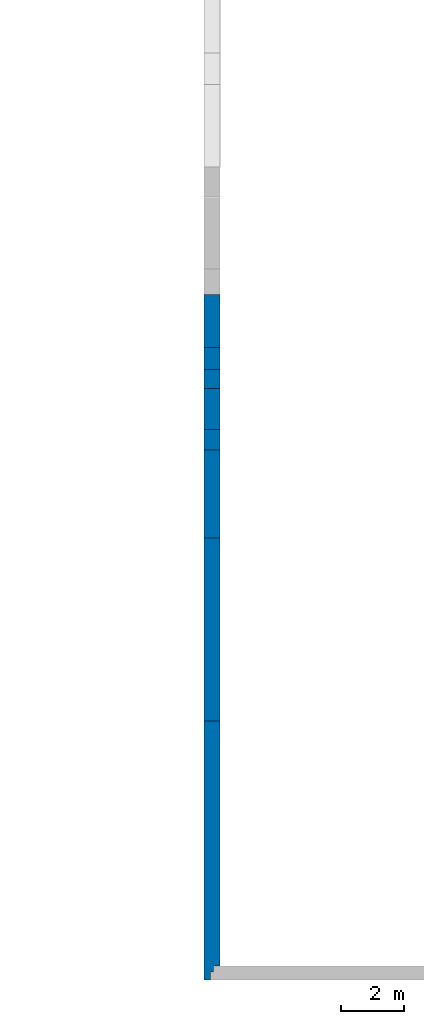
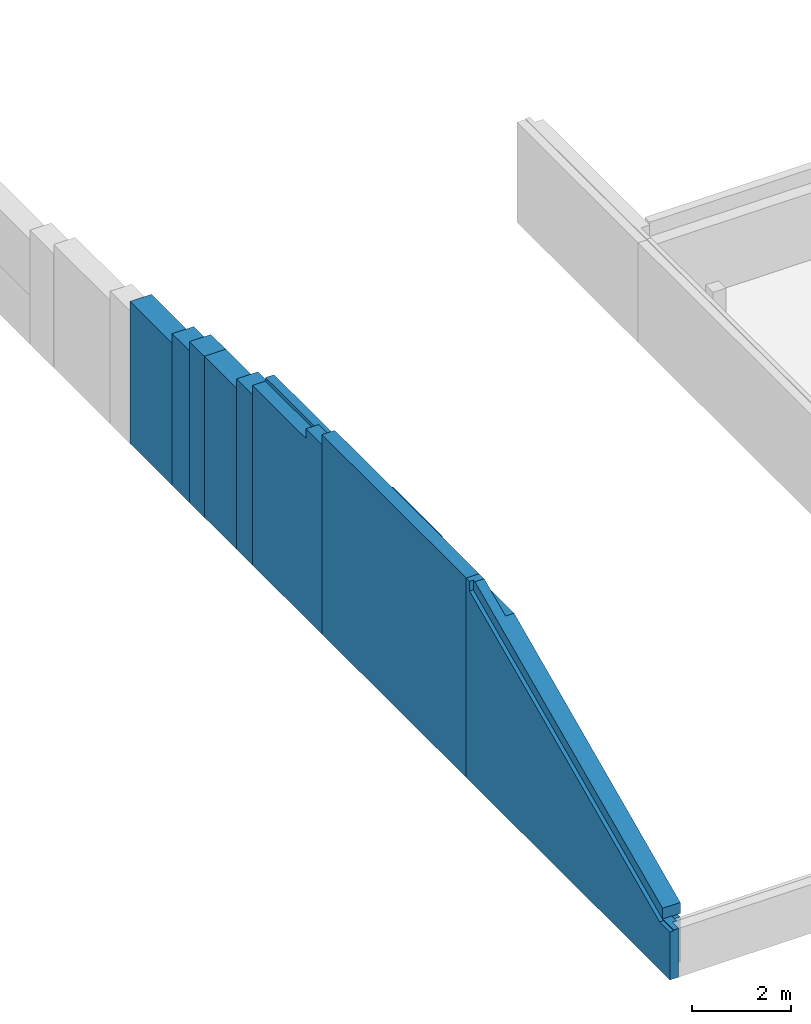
# One storey, part 3 of 8: 8 walls.
"""IFC2X3 building model written with IfcOpenShell, lengths in millimetres."""

from ifc_helpers import new_model, entity, si_unit, converted_unit, derived_unit, money_unit, direction, frame, origin_with_axes, place, context, subcontext, project, spatial, faceted_brep, material, material_list, type_object, element, save


model = new_model("IFC2X3")

# Units and contexts
model_context = context("Model", 3, precision=0.01, world=origin_with_axes(), true_north=direction((0.0, 1.0)))
body_context = subcontext(model_context, "Body", "Model", "MODEL_VIEW")
ifc_project = project(units=[si_unit("LENGTHUNIT", "METRE", prefix="MILLI"), si_unit("AREAUNIT", "SQUARE_METRE"), si_unit("VOLUMEUNIT", "CUBIC_METRE"), converted_unit("PLANEANGLEUNIT", "DEGREE", entity("IfcPlaneAngleMeasure", 0.0174532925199), si_unit("PLANEANGLEUNIT", "RADIAN"), dimensions=[0, 0, 0, 0, 0, 0, 0]), si_unit("SOLIDANGLEUNIT", "STERADIAN"), money_unit("EUR"), converted_unit("TIMEUNIT", "Year", entity("IfcTimeMeasure", 31556926.0), si_unit("TIMEUNIT", "SECOND"), dimensions=[0, 0, 1, 0, 0, 0, 0]), si_unit("MASSUNIT", "GRAM", prefix="KILO"), si_unit("THERMODYNAMICTEMPERATUREUNIT", "DEGREE_CELSIUS"), si_unit("LUMINOUSINTENSITYUNIT", "LUMEN"), si_unit("ENERGYUNIT", "JOULE", prefix="MEGA"), derived_unit("THERMALCONDUCTANCEUNIT", [(si_unit("POWERUNIT", "WATT"), 1), (si_unit("LENGTHUNIT", "METRE"), -1), (si_unit("THERMODYNAMICTEMPERATUREUNIT", "KELVIN"), -1)]), derived_unit("SPECIFICHEATCAPACITYUNIT", [(si_unit("ENERGYUNIT", "JOULE"), 1), (si_unit("MASSUNIT", "GRAM", prefix="KILO"), -1), (si_unit("THERMODYNAMICTEMPERATUREUNIT", "KELVIN"), -1)]), derived_unit("MASSDENSITYUNIT", [(si_unit("MASSUNIT", "GRAM", prefix="KILO"), 1), (si_unit("VOLUMEUNIT", "CUBIC_METRE"), -1)])], contexts=[model_context])

# Site, building, storey
site_placement = place(None, origin_with_axes())
site = spatial("IfcSite", under=ifc_project, at=site_placement, Name="L.Koidula tn 11b", CompositionType="ELEMENT")
building_placement = place(site_placement, origin_with_axes())
building = spatial("IfcBuilding", under=site, at=building_placement, Name="Rakvere Riigigümnaasium", CompositionType="ELEMENT")
storey_placement = place(building_placement, frame((0.0, 0.0, -2100.0), z_axis=(0.0, 0.0, 1.0), x_axis=(1.0, 0.0, 0.0)))
storey = spatial("IfcBuildingStorey", under=building, at=storey_placement, Name="1.korrus_tehniline -2,10", CompositionType="ELEMENT", Elevation=-2100.0)

# Walls
ifc_material_1 = material(Name="Betoon element / plaat")
ifc_material_2 = material(Name="SOJ-04_Soojustus - Mineraal Kõva")
ifc_material_list_1 = material_list([ifc_material_1, ifc_material_2, ifc_material_2])
wall_type_1 = type_object("IfcWallType", Name="VS-06 500", PredefinedType="NOTDEFINED")
wall_1_placement = place(storey_placement, frame((35500.0000521, 19110.4555253, 899.999997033), z_axis=(0.0, 0.0, 1.0), x_axis=(0.0, -1.0, 0.0)))
element("IfcWall", 1, at=wall_1_placement, inside=storey, type_object=wall_type_1, material=ifc_material_list_1, Name="Välissein", context=body_context, shape_type="Brep", body=[
    faceted_brep([(-6.32383034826e-10, -200.000429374, 1040.00000297), (0.0, 0.0, 1040.00000297), (0.0, 0.0, 0.0), (0.0, -200.0, 0.0), (4009.96186183, 0.0, 1040.00000297), (4009.96152922, -200.006498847, 1040.00000297), (4009.96186183, 0.0, 1110.00000297), (5830.00115353, 0.0, 1110.00000297), (5830.00115353, 0.0, 0.0), (5830.00115353, -200.0, 0.0), (5830.00115353, -200.0, 1110.00000297), (4009.96152922, -200.006498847, 1110.00000297)], [[[0, 1, 2, 3]], [[4, 1, 0, 5]], [[4, 6, 7, 8, 2, 1]], [[2, 8, 9, 3]], [[5, 0, 3, 9, 10, 11]], [[11, 6, 4, 5]], [[6, 11, 10, 7]], [[7, 10, 9, 8]]]),
    faceted_brep([(0.0, 0.0, 1190.00000297), (0.0, 0.0, 4525.00000297), (1999.9999744, 0.0, 4525.00000297), (2000.0000248, 0.0, 4670.00000297), (4009.97699504, 0.0, 4670.00000297), (4009.97699504, 0.0, 4525.00000297), (5830.00115353, 0.0, 4525.00000297), (5830.00115353, 0.0, 1190.00000297), (-6.28830321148e-10, -200.000429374, 1190.00000297), (0.0, -200.000052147, 4525.00000297), (1999.99997349, -200.000052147, 4525.00000297), (2000.0000248, -200.000052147, 4670.00000297), (4009.97699504, -200.0, 4670.00000297), (4009.97699504, -198.639259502, 4670.00000297), (4009.97699504, -198.639259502, 4525.00000297), (5830.00115353, -198.639259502, 4525.00000297), (5830.00115353, -198.639259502, 4920.00000297), (5830.00115353, -200.0, 4919.99998677), (5830.00115353, -200.0, 1190.00000297), (4009.96152922, -200.006498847, 1190.00000297), (4009.97699504, -200.00002478, 4920.00000297), (4009.97699504, -198.639259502, 4920.00000297)], [[[0, 1, 2, 3, 4, 5, 6, 7]], [[0, 8, 9, 1]], [[2, 1, 9, 10]], [[11, 3, 2, 10]], [[11, 12, 13, 4, 3]], [[4, 13, 14, 5]], [[6, 5, 14, 15]], [[15, 16, 17, 18, 7, 6]], [[19, 8, 0, 7, 18]], [[8, 19, 18, 17, 20, 12, 11, 10, 9]], [[20, 21, 13, 12]], [[13, 21, 16, 15, 14]], [[21, 20, 17, 16]]]),
    faceted_brep([(4009.96136294, -300.0, 1190.00000297), (4009.96136294, -300.0, 1010.00000297), (4009.96152923, -200.0, 1010.00000297), (4009.96152923, -200.0, 1190.00000297), (5830.00115353, -300.0, 1190.00000297), (5830.00115353, -300.0, 4919.99998677), (0.0, -300.0, 4919.99998677), (0.0, -300.0, 0.0), (5830.00115353, -300.0, 0.0), (5830.00115353, -300.0, 1010.00000297), (5830.00115353, -200.0, 1010.00000297), (5830.00115353, -200.0, 0.0), (0.0, -200.0, 0.0), (0.0, -200.0, 4919.99998677), (5830.00115353, -200.0, 4919.99998677), (5830.00115353, -200.0, 1190.00000297)], [[[0, 1, 2, 3]], [[1, 0, 4, 5, 6, 7, 8, 9]], [[10, 2, 1, 9]], [[2, 10, 11, 12, 13, 14, 15, 3]], [[3, 15, 4, 0]], [[4, 15, 14, 5]], [[6, 5, 14, 13]], [[13, 12, 7, 6]], [[12, 11, 8, 7]], [[10, 9, 8, 11]]]),
    faceted_brep([(4009.96122989, -380.004517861, 1190.00000297), (4009.96122989, -380.004517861, 1010.00000297), (4009.96136294, -300.0, 1010.00000297), (4009.96136294, -300.0, 1190.00000297), (5830.00115353, -380.0, 1010.00000297), (5830.00115353, -380.0, 1190.00000297), (5830.00115353, -300.0, 1010.00000297), (5830.00115353, -300.0, 0.0), (0.0, -300.0, 0.0), (0.0, -300.0, 4919.99998677), (5830.00115353, -300.0, 4919.99998677), (5830.00115353, -300.0, 1190.00000297), (5830.00115353, -500.0, 4919.99998677), (5830.00115353, -500.0, 0.0), (0.0, -500.0, 0.0), (0.0, -500.0, 4919.99998677)], [[[0, 1, 2, 3]], [[4, 1, 0, 5]], [[6, 2, 1, 4]], [[2, 6, 7, 8, 9, 10, 11, 3]], [[3, 11, 5, 0]], [[4, 5, 11, 10, 12, 13, 7, 6]], [[8, 7, 13, 14]], [[9, 8, 14, 15]], [[15, 12, 10, 9]], [[14, 13, 12, 15]]]),
])
wall_2_placement = place(storey_placement, frame((35500.0000521, 26860.4555253, 899.999997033), z_axis=(0.0, 0.0, 1.0), x_axis=(0.0, -1.0, 0.0)))
element("IfcWall", 2, at=wall_2_placement, inside=storey, type_object=wall_type_1, material=ifc_material_list_1, Name="Välissein", context=body_context, shape_type="Brep", body=[
    faceted_brep([(1.71063163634e-08, -199.988698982, 1040.00000297), (0.0, 0.0, 1040.00000297), (0.0, 0.0, 0.0), (0.0, -200.0, 0.0), (1700.00000001, -199.9912721, 1040.00000297), (1700.0, 0.0, 1040.00000297), (1700.0, 0.0, 0.0), (1700.0, -200.0, 0.0)], [[[0, 1, 2, 3]], [[1, 0, 4, 5]], [[1, 5, 6, 2]], [[6, 7, 3, 2]], [[0, 3, 7, 4]], [[6, 5, 4, 7]]]),
    faceted_brep([(0.0, 0.0, 1190.00000297), (0.0, 0.0, 3505.00000297), (1700.0, 0.0, 3505.00000297), (1700.0, 0.0, 1190.00000297), (1.71063163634e-08, -199.988698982, 1190.00000297), (0.0, -200.0, 3505.00000297), (1700.0, -200.0, 3505.00000297), (1700.00000001, -199.9912721, 1190.00000297)], [[[0, 1, 2, 3]], [[0, 4, 5, 1]], [[6, 2, 1, 5]], [[6, 7, 3, 2]], [[4, 0, 3, 7]], [[4, 7, 6, 5]]]),
    faceted_brep([(0.0, -200.0, 0.0), (1700.0, -200.0, 0.0), (1700.0, -300.0, 0.0), (0.0, -300.0, 0.0), (0.0, -200.0, 3505.00000297), (1700.0, -200.0, 3505.00000297), (1700.0, -300.0, 3505.00000297), (0.0, -300.0, 3505.00000297)], [[[0, 1, 2, 3]], [[4, 5, 1, 0]], [[2, 1, 5, 6]], [[3, 2, 6, 7]], [[4, 0, 3, 7]], [[7, 6, 5, 4]]]),
    faceted_brep([(1700.0, -300.0, 0.0), (1700.0, -500.0, 0.0), (0.0, -500.0, 0.0), (0.0, -300.0, 0.0), (1700.0, -300.0, 3505.00000297), (1700.0, -500.0, 3505.00000297), (0.0, -500.0, 3505.00000297), (0.0, -300.0, 3505.00000297)], [[[0, 1, 2, 3]], [[0, 4, 5, 1]], [[1, 5, 6, 2]], [[3, 2, 6, 7]], [[4, 0, 3, 7]], [[5, 4, 7, 6]]]),
])
wall_3_placement = place(storey_placement, frame((35500.0000521, 21910.4555253, 899.999997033), z_axis=(0.0, 0.0, 1.0), x_axis=(0.0, -1.0, 0.0)))
element("IfcWall", 3, at=wall_3_placement, inside=storey, type_object=wall_type_1, material=ifc_material_list_1, Name="Välissein", context=body_context, shape_type="Brep", body=[
    faceted_brep([(5.78381786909e-09, -199.996191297, 1040.00000297), (0.0, 0.0, 1040.00000297), (0.0, 0.0, 0.0), (0.0, -200.0, 0.0), (2800.0, 0.0, 1040.00000297), (2800.0, -200.000429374, 1040.00000297), (2800.0, 0.0, 0.0), (2800.0, -200.0, 0.0)], [[[0, 1, 2, 3]], [[4, 1, 0, 5]], [[1, 4, 6, 2]], [[3, 2, 6, 7]], [[5, 0, 3, 7]], [[4, 5, 7, 6]]]),
    faceted_brep([(2800.0, 0.0, 1190.00000297), (0.0, 0.0, 1190.00000297), (0.0, 0.0, 4525.00000297), (2800.0, 0.0, 4525.00000297), (5.78737058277e-09, -199.996191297, 1190.00000297), (2800.0, -200.000429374, 1190.00000297), (0.0, -200.000052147, 4525.00000297), (2800.0, -200.000052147, 4525.00000297)], [[[0, 1, 2, 3]], [[4, 1, 0, 5]], [[1, 4, 6, 2]], [[3, 2, 6, 7]], [[5, 0, 3, 7]], [[4, 5, 7, 6]]]),
    faceted_brep([(0.0, -300.0, 0.0), (0.0, -300.0, 4435.00000297), (0.0, -200.0, 4435.00000297), (0.0, -200.0, 0.0), (2150.0, -300.0, 4668.89976078), (2150.0, -300.0, 4435.00000297), (2800.0, -300.0, 0.0), (2800.0, -300.0, 4668.89976078), (2150.0, -200.0, 4435.00000297), (2150.0, -200.0, 4668.89976078), (2800.0, -200.0, 4668.89976078), (2800.0, -200.0, 0.0)], [[[0, 1, 2, 3]], [[4, 5, 1, 0, 6, 7]], [[5, 8, 2, 1]], [[2, 8, 9, 10, 11, 3]], [[0, 3, 11, 6]], [[5, 4, 9, 8]], [[7, 6, 11, 10]], [[10, 9, 4, 7]]]),
    faceted_brep([(0.0, -300.0, 4435.00000297), (0.0, -300.0, 0.0), (0.0, -500.0, 0.0), (0.0, -500.0, 4435.00000297), (2150.0, -300.0, 4435.00000297), (2150.0, -300.0, 4668.89976078), (2800.0, -300.0, 4668.89976078), (2800.0, -300.0, 0.0), (2800.0, -500.0, 0.0), (2150.0, -500.0, 4435.00000297), (2800.0, -500.0, 4668.89976078), (2150.0, -500.0, 4668.89976078)], [[[0, 1, 2, 3]], [[4, 5, 6, 7, 1, 0]], [[1, 7, 8, 2]], [[9, 3, 2, 8, 10, 11]], [[9, 4, 0, 3]], [[11, 5, 4, 9]], [[11, 10, 6, 5]], [[8, 7, 6, 10]]]),
])
wall_4_placement = place(storey_placement, frame((35500.0000521, 25160.4555253, 899.999997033), z_axis=(0.0, 0.0, 1.0), x_axis=(0.0, -1.0, 0.0)))
element("IfcWall", 4, at=wall_4_placement, inside=storey, type_object=wall_type_1, material=ifc_material_list_1, Name="Välissein", context=body_context, shape_type="Brep", body=[
    faceted_brep([(1.32089894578e-08, -199.9912721, 1040.00000297), (0.0, 0.0, 1040.00000297), (0.0, 0.0, 0.0), (0.0, -200.0, 0.0), (700.0, 0.0, 1040.00000297), (700.000000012, -199.99233162, 1040.00000297), (700.0, 0.0, 0.0), (700.0, -200.0, 0.0)], [[[0, 1, 2, 3]], [[4, 1, 0, 5]], [[1, 4, 6, 2]], [[2, 6, 7, 3]], [[5, 0, 3, 7]], [[4, 5, 7, 6]]]),
    faceted_brep([(700.0, 0.0, 1190.00000297), (0.0, 0.0, 1190.00000297), (0.0, 0.0, 3740.00000297), (700.0, 0.0, 3740.00000297), (1.32089894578e-08, -199.9912721, 1190.00000297), (700.000000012, -199.99233162, 1190.00000297), (0.0, -200.0, 3740.00000297), (700.0, -200.0, 3740.00000297)], [[[0, 1, 2, 3]], [[4, 1, 0, 5]], [[1, 4, 6, 2]], [[6, 7, 3, 2]], [[5, 0, 3, 7]], [[4, 5, 7, 6]]]),
    faceted_brep([(0.0, -200.0, 0.0), (700.0, -200.0, 0.0), (700.0, -300.0, 0.0), (0.0, -300.0, 0.0), (0.0, -200.0, 3740.00000297), (700.0, -200.0, 3740.00000297), (700.0, -300.0, 3740.00000297), (0.0, -300.0, 3740.00000297)], [[[0, 1, 2, 3]], [[4, 5, 1, 0]], [[2, 1, 5, 6]], [[3, 2, 6, 7]], [[4, 0, 3, 7]], [[7, 6, 5, 4]]]),
    faceted_brep([(700.0, -300.0, 0.0), (700.0, -500.0, 0.0), (0.0, -500.0, 0.0), (0.0, -300.0, 0.0), (700.0, -300.0, 3740.00000297), (700.0, -500.0, 3740.00000297), (0.0, -500.0, 3740.00000297), (0.0, -300.0, 3740.00000297)], [[[0, 1, 2, 3]], [[0, 4, 5, 1]], [[1, 5, 6, 2]], [[3, 2, 6, 7]], [[4, 0, 3, 7]], [[5, 4, 7, 6]]]),
])
wall_5_placement = place(storey_placement, frame((35500.0000521, 22560.4555253, 899.999997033), z_axis=(0.0, 0.0, 1.0), x_axis=(0.0, -1.0, 0.0)))
element("IfcWall", 5, at=wall_5_placement, inside=storey, type_object=wall_type_1, material=ifc_material_list_1, Name="Välissein", context=body_context, shape_type="Brep", body=[
    faceted_brep([(7.25464133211e-09, -199.995207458, 1040.00000297), (0.0, 0.0, 1040.00000297), (0.0, 0.0, 0.0), (0.0, -200.0, 0.0), (650.0, 0.0, 1040.00000297), (650.000000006, -199.996191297, 1040.00000297), (650.0, 0.0, 0.0), (650.0, -200.0, 0.0)], [[[0, 1, 2, 3]], [[4, 1, 0, 5]], [[1, 4, 6, 2]], [[3, 2, 6, 7]], [[5, 0, 3, 7]], [[4, 5, 7, 6]]]),
    faceted_brep([(650.0, 0.0, 1190.00000297), (0.0, 0.0, 1190.00000297), (0.0, 0.0, 4203.00000297), (650.0, 0.0, 4203.00000297), (7.25464133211e-09, -199.995207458, 1190.00000297), (650.000000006, -199.996191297, 1190.00000297), (0.0, -200.0, 4203.00000297), (650.0, -200.0, 4203.00000297)], [[[0, 1, 2, 3]], [[4, 1, 0, 5]], [[1, 4, 6, 2]], [[2, 6, 7, 3]], [[5, 0, 3, 7]], [[4, 5, 7, 6]]]),
    faceted_brep([(0.0, -300.0, 0.0), (0.0, -200.0, 0.0), (650.0, -200.0, 0.0), (650.0, -300.0, 0.0), (0.0, -300.0, 4203.00000297), (0.0, -200.0, 4203.00000297), (650.0, -200.0, 4203.00000297), (650.0, -300.0, 4203.00000297)], [[[0, 1, 2, 3]], [[4, 5, 1, 0]], [[1, 5, 6, 2]], [[7, 3, 2, 6]], [[4, 0, 3, 7]], [[5, 4, 7, 6]]]),
    faceted_brep([(0.0, -300.0, 0.0), (650.0, -300.0, 0.0), (650.0, -500.0, 0.0), (0.0, -500.0, 0.0), (0.0, -300.0, 4203.00000297), (650.0, -300.0, 4203.00000297), (650.0, -500.0, 4203.00000297), (0.0, -500.0, 4203.00000297)], [[[0, 1, 2, 3]], [[4, 5, 1, 0]], [[2, 1, 5, 6]], [[3, 2, 6, 7]], [[4, 0, 3, 7]], [[7, 6, 5, 4]]]),
])
wall_6_placement = place(storey_placement, frame((35500.0000521, 23860.4555253, 899.999997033), z_axis=(0.0, 0.0, 1.0), x_axis=(0.0, -1.0, 0.0)))
element("IfcWall", 6, at=wall_6_placement, inside=storey, type_object=wall_type_1, material=ifc_material_list_1, Name="Välissein", context=body_context, shape_type="Brep", body=[
    faceted_brep([(1.02318153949e-08, -199.993239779, 1040.00000297), (0.0, 0.0, 1040.00000297), (0.0, 0.0, 0.0), (0.0, -200.0, 0.0), (1300.0, 0.0, 1040.00000297), (1300.00000001, -199.995207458, 1040.00000297), (1300.0, 0.0, 0.0), (1300.0, -200.0, 0.0)], [[[0, 1, 2, 3]], [[4, 1, 0, 5]], [[1, 4, 6, 2]], [[2, 6, 7, 3]], [[5, 0, 3, 7]], [[4, 5, 7, 6]]]),
    faceted_brep([(1300.0, 0.0, 1190.00000297), (0.0, 0.0, 1190.00000297), (0.0, 0.0, 3970.00000297), (1300.0, 0.0, 3970.00000297), (1.02318153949e-08, -199.993239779, 1190.00000297), (1300.00000001, -199.995207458, 1190.00000297), (0.0, -200.0, 3970.00000297), (1300.0, -200.0, 3970.00000297)], [[[0, 1, 2, 3]], [[4, 1, 0, 5]], [[1, 4, 6, 2]], [[6, 7, 3, 2]], [[5, 0, 3, 7]], [[4, 5, 7, 6]]]),
    faceted_brep([(0.0, -200.0, 0.0), (1300.0, -200.0, 0.0), (1300.0, -300.0, 0.0), (0.0, -300.0, 0.0), (0.0, -200.0, 3970.00000297), (1300.0, -200.0, 3970.00000297), (1300.0, -300.0, 3970.00000297), (0.0, -300.0, 3970.00000297)], [[[0, 1, 2, 3]], [[4, 5, 1, 0]], [[2, 1, 5, 6]], [[3, 2, 6, 7]], [[4, 0, 3, 7]], [[7, 6, 5, 4]]]),
    faceted_brep([(1300.0, -300.0, 0.0), (1300.0, -500.0, 0.0), (0.0, -500.0, 0.0), (0.0, -300.0, 0.0), (1300.0, -300.0, 3970.00000297), (1300.0, -500.0, 3970.00000297), (0.0, -500.0, 3970.00000297), (0.0, -300.0, 3970.00000297)], [[[0, 1, 2, 3]], [[0, 4, 5, 1]], [[1, 5, 6, 2]], [[3, 2, 6, 7]], [[4, 0, 3, 7]], [[5, 4, 7, 6]]]),
])
wall_7_placement = place(storey_placement, frame((35499.0000521, 13280.4543717, 899.999983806), z_axis=(0.0, 0.0, 1.0), x_axis=(0.0, -1.0, 0.0)))
element("IfcWall", 7, at=wall_7_placement, inside=storey, type_object=wall_type_1, material=ifc_material_list_1, Name="Välissein", context=body_context, shape_type="Brep", body=[
    faceted_brep([(1066.93857789, -197.639259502, 4525.00001619), (1066.93857789, -2.43815634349e-07, 4525.00001619), (0.0, 0.0, 4525.00001619), (0.0, -197.639259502, 4525.00001619), (7779.99883287, -1.77787029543e-06, 1464.34564779), (200.568683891, -197.639259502, 4920.00001619), (200.568748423, -200.000000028, 4919.99998677), (7779.99883287, -200.000000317, 1464.34564779), (7779.99883287, -1.77787029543e-06, 1200.0), (7779.99883287, -1.76305547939e-06, 1190.00001619), (0.0, 0.0, 1190.00001619), (0.0, -197.639259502, 4920.00001619), (0.0, -200.0, 1190.00001619), (0.0, -200.0, 4919.99998677), (7779.99883287, -200.000000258, 1190.00001619)], [[[0, 1, 2, 3]], [[4, 1, 0, 5, 6, 7]], [[1, 4, 8, 9, 10, 2]], [[11, 3, 2, 10, 12, 13]], [[5, 0, 3, 11]], [[6, 5, 11, 13]], [[7, 6, 13, 12, 14]], [[4, 7, 14, 9, 8]], [[12, 10, 9, 14]]]),
    faceted_brep([(0.0, -200.0, 1110.00001619), (7779.99883287, -200.000000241, 1110.00001619), (7779.99883287, -1.64452984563e-06, 1110.00001619), (0.0, 0.0, 1110.00001619), (0.0, -200.0, 0.0), (7779.99883287, -200.0, 0.0), (7779.99883287, 0.0, 0.0), (0.0, 0.0, 0.0)], [[[0, 1, 2, 3]], [[1, 0, 4, 5]], [[2, 1, 5, 6]], [[2, 6, 7, 3]], [[0, 3, 7, 4]], [[7, 6, 5, 4]]]),
    faceted_brep([(200.568748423, -300.0, 4919.99998677), (200.568748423, -200.000000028, 4919.99998677), (0.0, -200.0, 4919.99998677), (0.0, -300.0, 4919.99998677), (7779.99883287, -200.000001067, 1464.34564779), (7779.99883287, -300.0, 1464.34564779), (7779.99883287, -200.000001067, 1200.0), (7979.99883287, -200.000001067, 1200.0), (7979.99883287, -200.000001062, 1195.00001619), (200.0, -200.000001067, 1195.00001619), (200.0, -200.000000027, 1190.00001619), (0.0, -200.0, 1190.00001619), (0.0, -300.0, 1190.00001619), (200.0, -300.0, 1190.00001619), (200.0, -300.0, 1195.00001619), (7979.99883287, -300.0, 1195.00001619), (7979.99883287, -300.0, 1200.0), (7779.99883287, -300.0, 1200.0)], [[[0, 1, 2, 3]], [[4, 1, 0, 5]], [[1, 4, 6, 7, 8, 9, 10, 11, 2]], [[2, 11, 12, 3]], [[5, 0, 3, 12, 13, 14, 15, 16, 17]], [[4, 5, 17, 6]], [[6, 17, 16, 7]], [[16, 15, 8, 7]], [[14, 9, 8, 15]], [[13, 10, 9, 14]], [[11, 10, 13, 12]]]),
    faceted_brep([(0.0, -300.0, 1010.00001619), (7979.99883287, -300.0, 1010.00001619), (7979.99883287, -200.000000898, 1010.00001619), (0.0, -200.0, 1010.00001619), (0.0, -300.0, 0.0), (7979.99883287, -300.0, 0.0), (7979.99883287, -200.0, 0.0), (0.0, -200.0, 0.0)], [[[0, 1, 2, 3]], [[1, 0, 4, 5]], [[2, 1, 5, 6]], [[2, 6, 7, 3]], [[0, 3, 7, 4]], [[7, 6, 5, 4]]]),
    faceted_brep([(134.66217804, -412.98189844, 4919.99998677), (200.568748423, -412.98189844, 4919.99998677), (200.568748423, -300.0, 4919.99998677), (0.0, -300.0, 4919.99998677), (0.0, -500.0, 4919.99998677), (134.66217804, -500.0, 4919.99998677), (134.66217804, -412.98189844, 4680.17147611), (219.66217804, -412.98189844, 4641.42147611), (304.66217804, -412.98189844, 4602.67147611), (389.66217804, -412.98189844, 4563.92147611), (474.66217804, -412.98189844, 4525.17147611), (559.66217804, -412.98189844, 4486.42147611), (644.66217804, -412.98189844, 4447.67147611), (729.66217804, -412.98189844, 4408.92147611), (814.66217804, -412.98189844, 4370.17147611), (899.66217804, -412.98189844, 4331.42147611), (984.66217804, -412.98189844, 4292.67147611), (1069.66217804, -412.98189844, 4253.92147611), (1154.66217804, -412.98189844, 4215.17147611), (1239.66217804, -412.98189844, 4176.42147611), (1324.66217804, -412.98189844, 4137.67147611), (1409.66217804, -412.98189844, 4098.92147611), (1494.66217804, -412.98189844, 4060.17147611), (1579.66217804, -412.98189844, 4021.42147611), (1664.66217804, -412.98189844, 3982.67147611), (1749.66217804, -412.98189844, 3943.92147611), (1834.66217804, -412.98189844, 3905.17147611), (1919.66217804, -412.98189844, 3866.42147611), (2004.66217804, -412.98189844, 3827.67147611), (2089.66217804, -412.98189844, 3788.92147611), (2174.66217804, -412.98189844, 3750.17147611), (2259.66217804, -412.98189844, 3711.42147611), (2344.66217804, -412.98189844, 3672.67147611), (2429.66217804, -412.98189844, 3633.92147611), (2514.66217804, -412.98189844, 3595.17147611), (2599.66217804, -412.98189844, 3556.42147611), (2684.66217804, -412.98189844, 3517.67147611), (2769.66217804, -412.98189844, 3478.92147611), (2854.66217804, -412.98189844, 3440.17147611), (2939.66217804, -412.98189844, 3401.42147611), (3024.66217804, -412.98189844, 3362.67147611), (3109.66217804, -412.98189844, 3323.92147611), (3194.66217804, -412.98189844, 3285.17147611), (3279.66217804, -412.98189844, 3246.42147611), (3364.66217804, -412.98189844, 3207.67147611), (3449.66217804, -412.98189844, 3168.92147611), (3534.66217804, -412.98189844, 3130.17147611), (3619.66217804, -412.98189844, 3091.42147611), (3704.66217804, -412.98189844, 3052.67147611), (3789.66217804, -412.98189844, 3013.92147611), (3874.66217804, -412.98189844, 2975.17147611), (3959.66217804, -412.98189844, 2936.42147611), (4044.66217804, -412.98189844, 2897.67147611), (4129.66217804, -412.98189844, 2858.92147611), (4214.66217804, -412.98189844, 2820.17147611), (4299.66217804, -412.98189844, 2781.42147611), (4384.66217804, -412.98189844, 2742.67147611), (4469.66217804, -412.98189844, 2703.92147611), (4554.66217804, -412.98189844, 2665.17147611), (4639.66217804, -412.98189844, 2626.42147611), (4724.66217804, -412.98189844, 2587.67147611), (4809.66217804, -412.98189844, 2548.92147611), (4894.66217804, -412.98189844, 2510.17147611), (4979.66217804, -412.98189844, 2471.42147611), (5064.66217804, -412.98189844, 2432.67147611), (5149.66217804, -412.98189844, 2393.92147611), (5234.66217804, -412.98189844, 2355.17147611), (5319.66217804, -412.98189844, 2316.42147611), (5404.66217804, -412.98189844, 2277.67147611), (5489.66217804, -412.98189844, 2238.92147611), (5574.66217804, -412.98189844, 2200.17147611), (5659.66217804, -412.98189844, 2161.42147611), (5744.66217804, -412.98189844, 2122.67147611), (5829.66217804, -412.98189844, 2083.92147611), (5914.66217804, -412.98189844, 2045.17147611), (5999.66217804, -412.98189844, 2006.42147611), (6084.66217804, -412.98189844, 1967.67147611), (6169.66217804, -412.98189844, 1928.92147611), (6254.66217804, -412.98189844, 1890.17147611), (6339.66217804, -412.98189844, 1851.42147611), (6424.66217804, -412.98189844, 1812.67147611), (6509.66217804, -412.98189844, 1773.92147611), (6594.66217804, -412.98189844, 1735.17147611), (6679.66217804, -412.98189844, 1696.42147611), (6764.66217804, -412.98189844, 1657.67147611), (6849.66217804, -412.98189844, 1618.92147611), (6934.66217804, -412.98189844, 1580.17147611), (7019.66217804, -412.98189844, 1541.42147611), (7104.66217804, -412.98189844, 1502.67147611), (7189.66217804, -412.98189844, 1463.92147611), (7274.66217804, -412.98189844, 1425.17147611), (7359.66217804, -412.98189844, 1386.42147611), (7444.66217804, -412.98189844, 1347.67147611), (7529.66217804, -412.98189844, 1308.92147611), (7614.66217804, -412.98189844, 1270.17147611), (7699.66217804, -412.98189844, 1231.42147611), (7784.66217804, -412.98189844, 1192.67147611), (7812.51470987, -412.98189844, 1179.97399837), (8229.99883287, -412.98189844, 1179.97399837), (8229.99883287, -412.98189844, 1200.0), (7779.99883287, -412.98189844, 1200.0), (7779.99883287, -412.98189844, 1464.34564779), (7779.99883287, -300.0, 1464.34564779), (7779.99883287, -300.0, 1200.0), (8229.99883287, -300.0, 1200.0), (8229.99883287, -300.0, 0.0), (0.0, -300.0, 0.0), (0.0, -300.0, 1010.00001619), (7979.99883287, -300.0, 1010.00001619), (7979.99883287, -300.0, 1195.00001619), (200.0, -300.0, 1195.00001619), (200.0, -300.0, 1190.00001619), (0.0, -300.0, 1190.00001619), (0.0, -379.0, 1190.00001619), (0.0, -379.0, 1010.00001619), (0.0, -500.0, 0.0), (134.66217804, -500.0, 4680.17147611), (8229.99883287, -500.0, 0.0), (8229.99883287, -500.0, 1179.97399837), (7812.51470987, -500.0, 1179.97399837), (7784.66217804, -500.0, 1192.67147611), (7699.66217804, -500.0, 1231.42147611), (7614.66217804, -500.0, 1270.17147611), (7529.66217804, -500.0, 1308.92147611), (7444.66217804, -500.0, 1347.67147611), (7359.66217804, -500.0, 1386.42147611), (7274.66217804, -500.0, 1425.17147611), (7189.66217804, -500.0, 1463.92147611), (7104.66217804, -500.0, 1502.67147611), (7019.66217804, -500.0, 1541.42147611), (6934.66217804, -500.0, 1580.17147611), (6849.66217804, -500.0, 1618.92147611), (6764.66217804, -500.0, 1657.67147611), (6679.66217804, -500.0, 1696.42147611), (6594.66217804, -500.0, 1735.17147611), (6509.66217804, -500.0, 1773.92147611), (6424.66217804, -500.0, 1812.67147611), (6339.66217804, -500.0, 1851.42147611), (6254.66217804, -500.0, 1890.17147611), (6169.66217804, -500.0, 1928.92147611), (6084.66217804, -500.0, 1967.67147611), (5999.66217804, -500.0, 2006.42147611), (5914.66217804, -500.0, 2045.17147611), (5829.66217804, -500.0, 2083.92147611), (5744.66217804, -500.0, 2122.67147611), (5659.66217804, -500.0, 2161.42147611), (5574.66217804, -500.0, 2200.17147611), (5489.66217804, -500.0, 2238.92147611), (5404.66217804, -500.0, 2277.67147611), (5319.66217804, -500.0, 2316.42147611), (5234.66217804, -500.0, 2355.17147611), (5149.66217804, -500.0, 2393.92147611), (5064.66217804, -500.0, 2432.67147611), (4979.66217804, -500.0, 2471.42147611), (4894.66217804, -500.0, 2510.17147611), (4809.66217804, -500.0, 2548.92147611), (4724.66217804, -500.0, 2587.67147611), (4639.66217804, -500.0, 2626.42147611), (4554.66217804, -500.0, 2665.17147611), (4469.66217804, -500.0, 2703.92147611), (4384.66217804, -500.0, 2742.67147611), (4299.66217804, -500.0, 2781.42147611), (4214.66217804, -500.0, 2820.17147611), (4129.66217804, -500.0, 2858.92147611), (4044.66217804, -500.0, 2897.67147611), (3959.66217804, -500.0, 2936.42147611), (3874.66217804, -500.0, 2975.17147611), (3789.66217804, -500.0, 3013.92147611), (3704.66217804, -500.0, 3052.67147611), (3619.66217804, -500.0, 3091.42147611), (3534.66217804, -500.0, 3130.17147611), (3449.66217804, -500.0, 3168.92147611), (3364.66217804, -500.0, 3207.67147611), (3279.66217804, -500.0, 3246.42147611), (3194.66217804, -500.0, 3285.17147611), (3109.66217804, -500.0, 3323.92147611), (3024.66217804, -500.0, 3362.67147611), (2939.66217804, -500.0, 3401.42147611), (2854.66217804, -500.0, 3440.17147611), (2769.66217804, -500.0, 3478.92147611), (2684.66217804, -500.0, 3517.67147611), (2599.66217804, -500.0, 3556.42147611), (2514.66217804, -500.0, 3595.17147611), (2429.66217804, -500.0, 3633.92147611), (2344.66217804, -500.0, 3672.67147611), (2259.66217804, -500.0, 3711.42147611), (2174.66217804, -500.0, 3750.17147611), (2089.66217804, -500.0, 3788.92147611), (2004.66217804, -500.0, 3827.67147611), (1919.66217804, -500.0, 3866.42147611), (1834.66217804, -500.0, 3905.17147611), (1749.66217804, -500.0, 3943.92147611), (1664.66217804, -500.0, 3982.67147611), (1579.66217804, -500.0, 4021.42147611), (1494.66217804, -500.0, 4060.17147611), (1409.66217804, -500.0, 4098.92147611), (1324.66217804, -500.0, 4137.67147611), (1239.66217804, -500.0, 4176.42147611), (1154.66217804, -500.0, 4215.17147611), (1069.66217804, -500.0, 4253.92147611), (984.66217804, -500.0, 4292.67147611), (899.66217804, -500.0, 4331.42147611), (814.66217804, -500.0, 4370.17147611), (729.66217804, -500.0, 4408.92147611), (644.66217804, -500.0, 4447.67147611), (559.66217804, -500.0, 4486.42147611), (474.66217804, -500.0, 4525.17147611), (389.66217804, -500.0, 4563.92147611), (304.66217804, -500.0, 4602.67147611), (219.66217804, -500.0, 4641.42147611), (7979.99883287, -378.980191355, 1010.00001619), (7979.99883287, -378.980191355, 1195.00001619), (200.0, -378.999503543, 1195.00001619), (200.0, -378.999503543, 1190.00001619)], [[[0, 1, 2, 3, 4, 5]], [[1, 0, 6, 7, 8, 9, 10, 11, 12, 13, 14, 15, 16, 17, 18, 19, 20, 21, 22, 23, 24, 25, 26, 27, 28, 29, 30, 31, 32, 33, 34, 35, 36, 37, 38, 39, 40, 41, 42, 43, 44, 45, 46, 47, 48, 49, 50, 51, 52, 53, 54, 55, 56, 57, 58, 59, 60, 61, 62, 63, 64, 65, 66, 67, 68, 69, 70, 71, 72, 73, 74, 75, 76, 77, 78, 79, 80, 81, 82, 83, 84, 85, 86, 87, 88, 89, 90, 91, 92, 93, 94, 95, 96, 97, 98, 99, 100, 101]], [[1, 101, 102, 2]], [[3, 2, 102, 103, 104, 105, 106, 107, 108, 109, 110, 111, 112]], [[112, 113, 114, 107, 106, 115, 4, 3]], [[116, 5, 4, 115, 117, 118, 119, 120, 121, 122, 123, 124, 125, 126, 127, 128, 129, 130, 131, 132, 133, 134, 135, 136, 137, 138, 139, 140, 141, 142, 143, 144, 145, 146, 147, 148, 149, 150, 151, 152, 153, 154, 155, 156, 157, 158, 159, 160, 161, 162, 163, 164, 165, 166, 167, 168, 169, 170, 171, 172, 173, 174, 175, 176, 177, 178, 179, 180, 181, 182, 183, 184, 185, 186, 187, 188, 189, 190, 191, 192, 193, 194, 195, 196, 197, 198, 199, 200, 201, 202, 203, 204, 205, 206, 207, 208, 209]], [[0, 5, 116, 6]], [[116, 209, 7, 6]], [[209, 208, 8, 7]], [[208, 207, 9, 8]], [[207, 206, 10, 9]], [[206, 205, 11, 10]], [[205, 204, 12, 11]], [[204, 203, 13, 12]], [[203, 202, 14, 13]], [[202, 201, 15, 14]], [[201, 200, 16, 15]], [[200, 199, 17, 16]], [[199, 198, 18, 17]], [[198, 197, 19, 18]], [[197, 196, 20, 19]], [[196, 195, 21, 20]], [[195, 194, 22, 21]], [[194, 193, 23, 22]], [[193, 192, 24, 23]], [[192, 191, 25, 24]], [[191, 190, 26, 25]], [[190, 189, 27, 26]], [[189, 188, 28, 27]], [[188, 187, 29, 28]], [[187, 186, 30, 29]], [[186, 185, 31, 30]], [[185, 184, 32, 31]], [[184, 183, 33, 32]], [[183, 182, 34, 33]], [[182, 181, 35, 34]], [[181, 180, 36, 35]], [[180, 179, 37, 36]], [[179, 178, 38, 37]], [[178, 177, 39, 38]], [[177, 176, 40, 39]], [[176, 175, 41, 40]], [[175, 174, 42, 41]], [[174, 173, 43, 42]], [[173, 172, 44, 43]], [[172, 171, 45, 44]], [[171, 170, 46, 45]], [[170, 169, 47, 46]], [[169, 168, 48, 47]], [[168, 167, 49, 48]], [[167, 166, 50, 49]], [[166, 165, 51, 50]], [[165, 164, 52, 51]], [[164, 163, 53, 52]], [[163, 162, 54, 53]], [[162, 161, 55, 54]], [[161, 160, 56, 55]], [[160, 159, 57, 56]], [[159, 158, 58, 57]], [[158, 157, 59, 58]], [[157, 156, 60, 59]], [[156, 155, 61, 60]], [[155, 154, 62, 61]], [[154, 153, 63, 62]], [[153, 152, 64, 63]], [[152, 151, 65, 64]], [[151, 150, 66, 65]], [[150, 149, 67, 66]], [[149, 148, 68, 67]], [[148, 147, 69, 68]], [[147, 146, 70, 69]], [[146, 145, 71, 70]], [[145, 144, 72, 71]], [[144, 143, 73, 72]], [[143, 142, 74, 73]], [[142, 141, 75, 74]], [[141, 140, 76, 75]], [[140, 139, 77, 76]], [[139, 138, 78, 77]], [[138, 137, 79, 78]], [[137, 136, 80, 79]], [[136, 135, 81, 80]], [[135, 134, 82, 81]], [[134, 133, 83, 82]], [[133, 132, 84, 83]], [[132, 131, 85, 84]], [[131, 130, 86, 85]], [[130, 129, 87, 86]], [[129, 128, 88, 87]], [[128, 127, 89, 88]], [[127, 126, 90, 89]], [[126, 125, 91, 90]], [[125, 124, 92, 91]], [[124, 123, 93, 92]], [[123, 122, 94, 93]], [[122, 121, 95, 94]], [[121, 120, 96, 95]], [[120, 119, 97, 96]], [[118, 98, 97, 119]], [[98, 118, 117, 105, 104, 99]], [[100, 99, 104, 103]], [[101, 100, 103, 102]], [[117, 115, 106, 105]], [[108, 107, 114, 210]], [[211, 109, 108, 210]], [[211, 212, 110, 109]], [[212, 213, 111, 110]], [[113, 112, 111, 213]], [[211, 210, 114, 113, 213, 212]]]),
])
ifc_material_list_2 = material_list([ifc_material_1, ifc_material_2])
wall_type_2 = type_object("IfcWallType", Name="VS-07 500", PredefinedType="NOTDEFINED")
wall_8_placement = place(storey_placement, frame((35500.0000521, 24460.4555253, 899.999997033), z_axis=(0.0, 0.0, 1.0), x_axis=(0.0, -1.0, 0.0)))
element("IfcWall", 8, at=wall_8_placement, inside=storey, type_object=wall_type_2, material=ifc_material_list_2, Name="Välissein", context=body_context, shape_type="Brep", body=[
    faceted_brep([(600.000000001, 0.0, 1190.00000297), (0.0, 0.0, 1190.00000297), (0.0, 0.0, 3970.00000297), (600.000000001, 0.0, 3970.00000297), (0.0, -199.99233162, 1190.00000297), (600.000000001, -199.993239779, 1190.00000297), (0.0, -199.99233162, 1040.00000297), (0.0, 0.0, 1040.00000297), (0.0, 0.0, 0.0), (0.0, -300.0, 0.0), (0.0, -300.0, 3970.00000297), (600.000000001, -300.0, 3970.00000297), (600.000000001, -300.0, 0.0), (600.000000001, 0.0, 0.0), (600.000000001, 0.0, 1040.00000297), (600.000000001, -199.993239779, 1040.00000297)], [[[0, 1, 2, 3]], [[4, 1, 0, 5]], [[6, 7, 8, 9, 10, 2, 1, 4]], [[10, 11, 3, 2]], [[5, 0, 3, 11, 12, 13, 14, 15]], [[6, 4, 5, 15]], [[14, 7, 6, 15]], [[7, 14, 13, 8]], [[8, 13, 12, 9]], [[9, 12, 11, 10]]]),
    faceted_brep([(600.000000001, -300.0, 0.0), (600.000000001, -500.0, 0.0), (0.0, -500.0, 0.0), (0.0, -300.0, 0.0), (600.000000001, -300.0, 3970.00000297), (600.000000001, -500.0, 3970.00000297), (0.0, -500.0, 3970.00000297), (0.0, -300.0, 3970.00000297)], [[[0, 1, 2, 3]], [[0, 4, 5, 1]], [[1, 5, 6, 2]], [[3, 2, 6, 7]], [[4, 0, 3, 7]], [[5, 4, 7, 6]]]),
])

save(model, "model.ifc")
